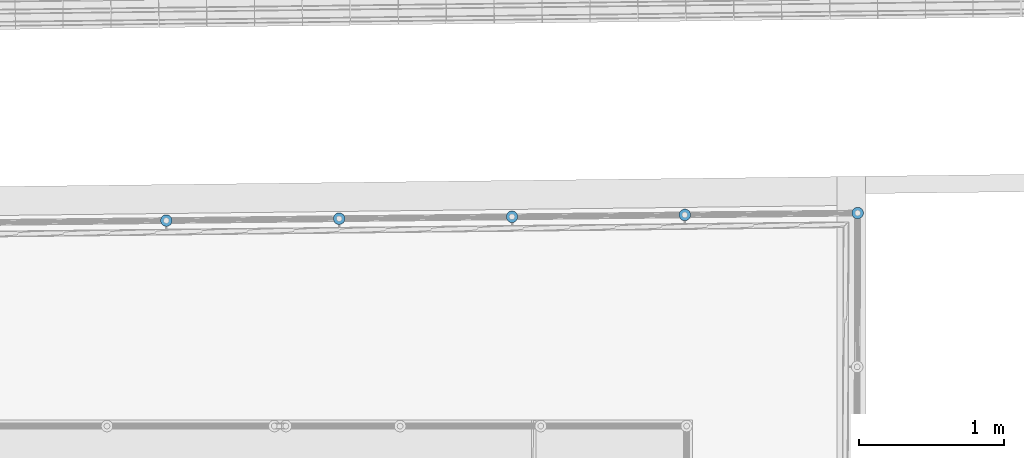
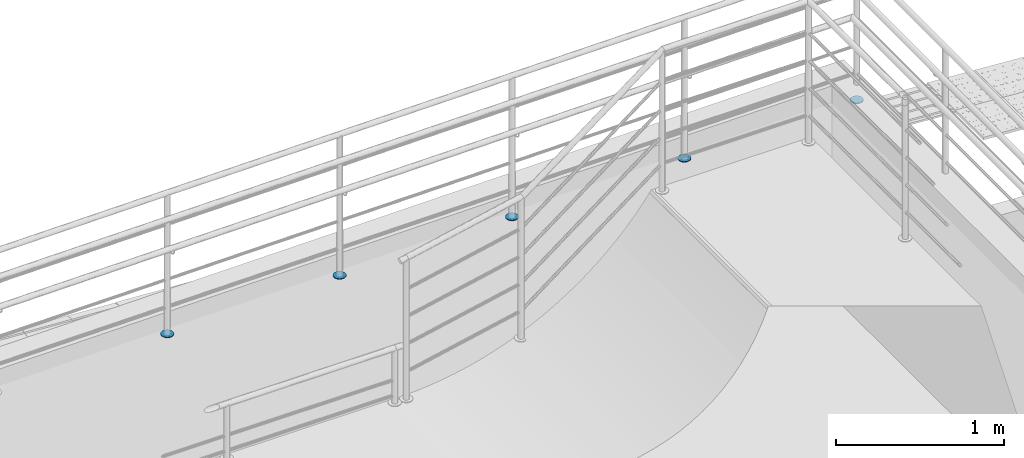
# One storey, part 127 of 237: 5 building element parts, 1 element without a shape of its own.
"""IFC2X3 building model written with IfcOpenShell, lengths in millimetres."""

from ifc_helpers import new_model, entity, si_unit, converted_unit, derived_unit, money_unit, direction, frame, origin_with_axes, place, context, subcontext, project, spatial, faceted_brep, material, type_object, element, aggregate, save


model = new_model("IFC2X3")

# Units and contexts
model_context = context("Model", 3, precision=0.01, world=origin_with_axes(), true_north=direction((0.0, 1.0)))
body_context = subcontext(model_context, "Body", "Model", "MODEL_VIEW")
ifc_project = project(units=[si_unit("LENGTHUNIT", "METRE", prefix="MILLI"), si_unit("AREAUNIT", "SQUARE_METRE"), si_unit("VOLUMEUNIT", "CUBIC_METRE"), converted_unit("PLANEANGLEUNIT", "DEGREE", entity("IfcPlaneAngleMeasure", 0.0174532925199), si_unit("PLANEANGLEUNIT", "RADIAN"), dimensions=[0, 0, 0, 0, 0, 0, 0]), money_unit("USD"), converted_unit("TIMEUNIT", "Year", entity("IfcTimeMeasure", 31556926.0), si_unit("TIMEUNIT", "SECOND"), dimensions=[0, 0, 1, 0, 0, 0, 0]), si_unit("MASSUNIT", "GRAM", prefix="KILO"), si_unit("THERMODYNAMICTEMPERATUREUNIT", "DEGREE_CELSIUS"), si_unit("LUMINOUSINTENSITYUNIT", "LUMEN"), si_unit("ENERGYUNIT", "JOULE", prefix="MEGA"), derived_unit("THERMALCONDUCTANCEUNIT", [(si_unit("POWERUNIT", "WATT"), 1), (si_unit("LENGTHUNIT", "METRE"), -1), (si_unit("THERMODYNAMICTEMPERATUREUNIT", "KELVIN"), -1)]), derived_unit("SPECIFICHEATCAPACITYUNIT", [(si_unit("ENERGYUNIT", "JOULE"), 1), (si_unit("MASSUNIT", "GRAM", prefix="KILO"), -1), (si_unit("THERMODYNAMICTEMPERATUREUNIT", "KELVIN"), -1)]), derived_unit("MASSDENSITYUNIT", [(si_unit("MASSUNIT", "GRAM", prefix="KILO"), 1), (si_unit("VOLUMEUNIT", "CUBIC_METRE"), -1)])], contexts=[model_context])

# Site, building, storey
site_placement = place(None, origin_with_axes())
site = spatial("IfcSite", under=ifc_project, at=site_placement, Name="Local", CompositionType="ELEMENT")
building_placement = place(site_placement, origin_with_axes())
building = spatial("IfcBuilding", under=site, at=building_placement, Name="Construção", CompositionType="ELEMENT")
storey_placement = place(building_placement, origin_with_axes())
storey = spatial("IfcBuildingStorey", under=building, at=storey_placement, Name="Pavimento Térreo", CompositionType="ELEMENT", Elevation=0.0)

# Railing, building element parts
railing_type = type_object("IfcRailingType", Name="Tipo de Guarda-Corpo", PredefinedType="NOTDEFINED")
railing_placement = place(storey_placement, frame((70326.6870103, 28675.2458388, -1357.10819655), z_axis=(0.0, 0.0, 1.0), x_axis=(1.0, 0.0, 0.0)))
railing = element("IfcRailing", 1, at=railing_placement, inside=storey, type_object=railing_type, Name="Guarda-Corpo - 004", PredefinedType="NOTDEFINED")
ifc_material = material(Name="Alumínio")
building_element_part_1_placement = place(railing_placement, origin_with_axes())
building_element_part_1 = element("IfcBuildingElementPart", 2, at=building_element_part_1_placement, material=ifc_material, Name="Alumínio", context=body_context, shape_type="Brep", body=[
    faceted_brep([(-4721.75844762, 6692.00261645, 0.0), (-4728.70616313, 6691.41572676, 0.0), (-4728.70616313, 6691.41572676, 5.0), (-4721.75844762, 6692.00261645, 5.0), (-4714.81437119, 6691.37413183, 0.0), (-4708.08492609, 6689.54936909, 0.0), (-4701.77458311, 6686.58377272, 0.0), (-4696.07507883, 6682.56745086, 0.0), (-4691.15958979, 6677.62243742, 0.0), (-4687.17747065, 6671.89898414, 0.0), (-4684.24971608, 6665.57099524, 0.0), (-4682.46528442, 6658.83074346, 0.0), (-4681.87839473, 6651.88302795, 0.0), (-4682.50687934, 6644.93895152, 0.0), (-4684.33164208, 6638.20950642, 0.0), (-4687.29723846, 6631.89916344, 0.0), (-4691.31356032, 6626.19965916, 0.0), (-4696.25857375, 6621.28417012, 0.0), (-4701.98202704, 6617.30205098, 0.0), (-4708.31001594, 6614.37429641, 0.0), (-4715.05026772, 6612.58986475, 0.0), (-4721.99798323, 6612.00297506, 0.0), (-4728.94205966, 6612.63145968, 0.0), (-4735.67150475, 6614.45622242, 0.0), (-4741.98184773, 6617.42181879, 0.0), (-4747.68135202, 6621.43814065, 0.0), (-4752.59684105, 6626.38315408, 0.0), (-4756.5789602, 6632.10660737, 0.0), (-4759.50671477, 6638.43459627, 0.0), (-4761.29114642, 6645.17484805, 0.0), (-4761.87803612, 6652.12256356, 0.0), (-4761.2495515, 6659.06663999, 0.0), (-4759.42478876, 6665.79608509, 0.0), (-4756.45919239, 6672.10642806, 0.0), (-4752.44287053, 6677.80593235, 0.0), (-4747.49785709, 6682.72142139, 0.0), (-4741.77440381, 6686.70354053, 0.0), (-4735.44641491, 6689.6312951, 0.0), (-4735.44641491, 6689.6312951, 5.0), (-4741.77440381, 6686.70354053, 5.0), (-4747.49785709, 6682.72142139, 5.0), (-4752.44287053, 6677.80593235, 5.0), (-4756.45919239, 6672.10642806, 5.0), (-4759.42478876, 6665.79608509, 5.0), (-4761.2495515, 6659.06663999, 5.0), (-4761.87803612, 6652.12256356, 5.0), (-4761.29114642, 6645.17484805, 5.0), (-4759.50671477, 6638.43459627, 5.0), (-4756.5789602, 6632.10660737, 5.0), (-4752.59684105, 6626.38315408, 5.0), (-4747.68135202, 6621.43814065, 5.0), (-4741.98184773, 6617.42181879, 5.0), (-4735.67150475, 6614.45622242, 5.0), (-4728.94205966, 6612.63145968, 5.0), (-4721.99798323, 6612.00297506, 5.0), (-4715.05026772, 6612.58986475, 5.0), (-4708.31001594, 6614.37429641, 5.0), (-4701.98202704, 6617.30205098, 5.0), (-4696.25857375, 6621.28417012, 5.0), (-4691.31356032, 6626.19965916, 5.0), (-4687.29723846, 6631.89916344, 5.0), (-4684.33164208, 6638.20950642, 5.0), (-4682.50687934, 6644.93895152, 5.0), (-4681.87839473, 6651.88302795, 5.0), (-4682.46528442, 6658.83074346, 5.0), (-4684.24971608, 6665.57099524, 5.0), (-4687.17747065, 6671.89898414, 5.0), (-4691.15958979, 6677.62243742, 5.0), (-4696.07507883, 6682.56745086, 5.0), (-4701.77458311, 6686.58377272, 5.0), (-4708.08492609, 6689.54936909, 5.0), (-4714.81437119, 6691.37413183, 5.0)], [[[0, 1, 2, 3]], [[0, 4, 5, 6, 7, 8, 9, 10, 11, 12, 13, 14, 15, 16, 17, 18, 19, 20, 21, 22, 23, 24, 25, 26, 27, 28, 29, 30, 31, 32, 33, 34, 35, 36, 37, 1]], [[1, 37, 38, 2]], [[3, 2, 38, 39, 40, 41, 42, 43, 44, 45, 46, 47, 48, 49, 50, 51, 52, 53, 54, 55, 56, 57, 58, 59, 60, 61, 62, 63, 64, 65, 66, 67, 68, 69, 70, 71]], [[4, 0, 3, 71]], [[5, 4, 71, 70]], [[6, 5, 70, 69]], [[7, 6, 69, 68]], [[8, 7, 68, 67]], [[9, 8, 67, 66]], [[10, 9, 66, 65]], [[11, 10, 65, 64]], [[12, 11, 64, 63]], [[13, 12, 63, 62]], [[14, 13, 62, 61]], [[15, 14, 61, 60]], [[16, 15, 60, 59]], [[17, 16, 59, 58]], [[18, 17, 58, 57]], [[19, 18, 57, 56]], [[20, 19, 56, 55]], [[21, 20, 55, 54]], [[22, 21, 54, 53]], [[23, 22, 53, 52]], [[24, 23, 52, 51]], [[25, 24, 51, 50]], [[26, 25, 50, 49]], [[27, 26, 49, 48]], [[28, 27, 48, 47]], [[29, 28, 47, 46]], [[30, 29, 46, 45]], [[31, 30, 45, 44]], [[32, 31, 44, 43]], [[33, 32, 43, 42]], [[34, 33, 42, 41]], [[35, 34, 41, 40]], [[36, 35, 40, 39]], [[37, 36, 39, 38]]]),
])
building_element_part_2_placement = place(railing_placement, origin_with_axes())
building_element_part_2 = element("IfcBuildingElementPart", 3, at=building_element_part_2_placement, material=ifc_material, Name="Alumínio", context=body_context, shape_type="Brep", body=[
    faceted_brep([(-5956.51307628, 6638.5740712, 0.0), (-5955.8298782, 6631.63516417, 0.0), (-5955.8298782, 6631.63516417, 5.0), (-5956.51307628, 6638.5740712, 5.0), (-5955.98096648, 6645.52619674, 0.0), (-5954.24971669, 6652.28030397, 0.0), (-5951.37193006, 6658.63117277, 0.0), (-5947.43504669, 6664.3858352, 0.0), (-5942.55868677, 6669.36943875, 0.0), (-5936.89101605, 6673.43055915, 0.0), (-5930.60424382, 6676.44580132, 0.0), (-5923.88939048, 6678.32354864, 0.0), (-5916.95048345, 6679.00674671, 0.0), (-5909.99835791, 6678.47463691, 0.0), (-5903.24425068, 6676.74338712, 0.0), (-5896.89338188, 6673.8656005, 0.0), (-5891.13871945, 6669.92871712, 0.0), (-5886.1551159, 6665.05235721, 0.0), (-5882.0939955, 6659.38468648, 0.0), (-5879.07875334, 6653.09791426, 0.0), (-5877.20100601, 6646.38306092, 0.0), (-5876.51780794, 6639.44415389, 0.0), (-5877.04991774, 6632.49202835, 0.0), (-5878.78116753, 6625.73792112, 0.0), (-5881.65895415, 6619.38705232, 0.0), (-5885.59583753, 6613.63238989, 0.0), (-5890.47219744, 6608.64878634, 0.0), (-5896.13986817, 6604.58766594, 0.0), (-5902.42664039, 6601.57242377, 0.0), (-5909.14149373, 6599.69467645, 0.0), (-5916.08040076, 6599.01147838, 0.0), (-5923.0325263, 6599.54358818, 0.0), (-5929.78663354, 6601.27483796, 0.0), (-5936.13750233, 6604.15262459, 0.0), (-5941.89216476, 6608.08950796, 0.0), (-5946.87576831, 6612.96586788, 0.0), (-5950.93688872, 6618.6335386, 0.0), (-5953.95213088, 6624.92031083, 0.0), (-5953.95213088, 6624.92031083, 5.0), (-5950.93688872, 6618.6335386, 5.0), (-5946.87576831, 6612.96586788, 5.0), (-5941.89216476, 6608.08950796, 5.0), (-5936.13750233, 6604.15262459, 5.0), (-5929.78663354, 6601.27483796, 5.0), (-5923.0325263, 6599.54358818, 5.0), (-5916.08040076, 6599.01147838, 5.0), (-5909.14149373, 6599.69467645, 5.0), (-5902.42664039, 6601.57242377, 5.0), (-5896.13986817, 6604.58766594, 5.0), (-5890.47219744, 6608.64878634, 5.0), (-5885.59583753, 6613.63238989, 5.0), (-5881.65895415, 6619.38705232, 5.0), (-5878.78116753, 6625.73792112, 5.0), (-5877.04991774, 6632.49202835, 5.0), (-5876.51780794, 6639.44415389, 5.0), (-5877.20100601, 6646.38306092, 5.0), (-5879.07875334, 6653.09791426, 5.0), (-5882.0939955, 6659.38468648, 5.0), (-5886.1551159, 6665.05235721, 5.0), (-5891.13871945, 6669.92871712, 5.0), (-5896.89338188, 6673.8656005, 5.0), (-5903.24425068, 6676.74338712, 5.0), (-5909.99835791, 6678.47463691, 5.0), (-5916.95048345, 6679.00674671, 5.0), (-5923.88939048, 6678.32354864, 5.0), (-5930.60424382, 6676.44580132, 5.0), (-5936.89101605, 6673.43055915, 5.0), (-5942.55868677, 6669.36943875, 5.0), (-5947.43504669, 6664.3858352, 5.0), (-5951.37193006, 6658.63117277, 5.0), (-5954.24971669, 6652.28030397, 5.0), (-5955.98096648, 6645.52619674, 5.0)], [[[0, 1, 2, 3]], [[0, 4, 5, 6, 7, 8, 9, 10, 11, 12, 13, 14, 15, 16, 17, 18, 19, 20, 21, 22, 23, 24, 25, 26, 27, 28, 29, 30, 31, 32, 33, 34, 35, 36, 37, 1]], [[1, 37, 38, 2]], [[3, 2, 38, 39, 40, 41, 42, 43, 44, 45, 46, 47, 48, 49, 50, 51, 52, 53, 54, 55, 56, 57, 58, 59, 60, 61, 62, 63, 64, 65, 66, 67, 68, 69, 70, 71]], [[4, 0, 3, 71]], [[5, 4, 71, 70]], [[6, 5, 70, 69]], [[7, 6, 69, 68]], [[8, 7, 68, 67]], [[9, 8, 67, 66]], [[10, 9, 66, 65]], [[11, 10, 65, 64]], [[12, 11, 64, 63]], [[13, 12, 63, 62]], [[14, 13, 62, 61]], [[15, 14, 61, 60]], [[16, 15, 60, 59]], [[17, 16, 59, 58]], [[18, 17, 58, 57]], [[19, 18, 57, 56]], [[20, 19, 56, 55]], [[21, 20, 55, 54]], [[22, 21, 54, 53]], [[23, 22, 53, 52]], [[24, 23, 52, 51]], [[25, 24, 51, 50]], [[26, 25, 50, 49]], [[27, 26, 49, 48]], [[28, 27, 48, 47]], [[29, 28, 47, 46]], [[30, 29, 46, 45]], [[31, 30, 45, 44]], [[32, 31, 44, 43]], [[33, 32, 43, 42]], [[34, 33, 42, 41]], [[35, 34, 41, 40]], [[36, 35, 40, 39]], [[37, 36, 39, 38]]]),
])
building_element_part_3_placement = place(railing_placement, origin_with_axes())
building_element_part_3 = element("IfcBuildingElementPart", 4, at=building_element_part_3_placement, material=ifc_material, Name="Alumínio", context=body_context, shape_type="Brep", body=[
    faceted_brep([(-7151.15030296, 6625.58038799, 0.0), (-7150.46710489, 6618.64148096, 0.0), (-7150.46710489, 6618.64148096, 5.0), (-7151.15030296, 6625.58038799, 5.0), (-7150.61819316, 6632.53251352, 0.0), (-7148.88694337, 6639.28662076, 0.0), (-7146.00915675, 6645.63748956, 0.0), (-7142.07227337, 6651.39215199, 0.0), (-7137.19591346, 6656.37575554, 0.0), (-7131.52824273, 6660.43687594, 0.0), (-7125.24147051, 6663.4521181, 0.0), (-7118.52661717, 6665.32986543, 0.0), (-7111.58771014, 6666.0130635, 0.0), (-7104.6355846, 6665.4809537, 0.0), (-7097.88147736, 6663.74970391, 0.0), (-7091.53060857, 6660.87191729, 0.0), (-7085.77594614, 6656.93503391, 0.0), (-7080.79234259, 6652.058674, 0.0), (-7076.73122219, 6646.39100327, 0.0), (-7073.71598002, 6640.10423105, 0.0), (-7071.8382327, 6633.38937771, 0.0), (-7071.15503462, 6626.45047068, 0.0), (-7071.68714443, 6619.49834514, 0.0), (-7073.41839421, 6612.7442379, 0.0), (-7076.29618084, 6606.39336911, 0.0), (-7080.23306421, 6600.63870668, 0.0), (-7085.10942413, 6595.65510313, 0.0), (-7090.77709485, 6591.59398272, 0.0), (-7097.06386708, 6588.57874056, 0.0), (-7103.77872042, 6586.70099324, 0.0), (-7110.71762745, 6586.01779516, 0.0), (-7117.66975299, 6586.54990496, 0.0), (-7124.42386022, 6588.28115475, 0.0), (-7130.77472902, 6591.15894138, 0.0), (-7136.52939145, 6595.09582475, 0.0), (-7141.512995, 6599.97218467, 0.0), (-7145.5741154, 6605.63985539, 0.0), (-7148.58935757, 6611.92662762, 0.0), (-7148.58935757, 6611.92662762, 5.0), (-7145.5741154, 6605.63985539, 5.0), (-7141.512995, 6599.97218467, 5.0), (-7136.52939145, 6595.09582475, 5.0), (-7130.77472902, 6591.15894138, 5.0), (-7124.42386022, 6588.28115475, 5.0), (-7117.66975299, 6586.54990496, 5.0), (-7110.71762745, 6586.01779516, 5.0), (-7103.77872042, 6586.70099324, 5.0), (-7097.06386708, 6588.57874056, 5.0), (-7090.77709485, 6591.59398272, 5.0), (-7085.10942413, 6595.65510313, 5.0), (-7080.23306421, 6600.63870668, 5.0), (-7076.29618084, 6606.39336911, 5.0), (-7073.41839421, 6612.7442379, 5.0), (-7071.68714443, 6619.49834514, 5.0), (-7071.15503462, 6626.45047068, 5.0), (-7071.8382327, 6633.38937771, 5.0), (-7073.71598002, 6640.10423105, 5.0), (-7076.73122219, 6646.39100327, 5.0), (-7080.79234259, 6652.058674, 5.0), (-7085.77594614, 6656.93503391, 5.0), (-7091.53060857, 6660.87191729, 5.0), (-7097.88147736, 6663.74970391, 5.0), (-7104.6355846, 6665.4809537, 5.0), (-7111.58771014, 6666.0130635, 5.0), (-7118.52661717, 6665.32986543, 5.0), (-7125.24147051, 6663.4521181, 5.0), (-7131.52824273, 6660.43687594, 5.0), (-7137.19591346, 6656.37575554, 5.0), (-7142.07227337, 6651.39215199, 5.0), (-7146.00915675, 6645.63748956, 5.0), (-7148.88694337, 6639.28662076, 5.0), (-7150.61819316, 6632.53251352, 5.0)], [[[0, 1, 2, 3]], [[0, 4, 5, 6, 7, 8, 9, 10, 11, 12, 13, 14, 15, 16, 17, 18, 19, 20, 21, 22, 23, 24, 25, 26, 27, 28, 29, 30, 31, 32, 33, 34, 35, 36, 37, 1]], [[1, 37, 38, 2]], [[3, 2, 38, 39, 40, 41, 42, 43, 44, 45, 46, 47, 48, 49, 50, 51, 52, 53, 54, 55, 56, 57, 58, 59, 60, 61, 62, 63, 64, 65, 66, 67, 68, 69, 70, 71]], [[4, 0, 3, 71]], [[5, 4, 71, 70]], [[6, 5, 70, 69]], [[7, 6, 69, 68]], [[8, 7, 68, 67]], [[9, 8, 67, 66]], [[10, 9, 66, 65]], [[11, 10, 65, 64]], [[12, 11, 64, 63]], [[13, 12, 63, 62]], [[14, 13, 62, 61]], [[15, 14, 61, 60]], [[16, 15, 60, 59]], [[17, 16, 59, 58]], [[18, 17, 58, 57]], [[19, 18, 57, 56]], [[20, 19, 56, 55]], [[21, 20, 55, 54]], [[22, 21, 54, 53]], [[23, 22, 53, 52]], [[24, 23, 52, 51]], [[25, 24, 51, 50]], [[26, 25, 50, 49]], [[27, 26, 49, 48]], [[28, 27, 48, 47]], [[29, 28, 47, 46]], [[30, 29, 46, 45]], [[31, 30, 45, 44]], [[32, 31, 44, 43]], [[33, 32, 43, 42]], [[34, 33, 42, 41]], [[35, 34, 41, 40]], [[36, 35, 40, 39]], [[37, 36, 39, 38]]]),
])
building_element_part_4_placement = place(railing_placement, origin_with_axes())
building_element_part_4 = element("IfcBuildingElementPart", 5, at=building_element_part_4_placement, material=ifc_material, Name="Alumínio", context=body_context, shape_type="Brep", body=[
    faceted_brep([(-8345.78752965, 6612.58670477, 0.0), (-8345.10433157, 6605.64779775, 0.0), (-8345.10433157, 6605.64779775, 5.0), (-8345.78752965, 6612.58670477, 5.0), (-8345.25541985, 6619.53883031, 0.0), (-8343.52417006, 6626.29293755, 0.0), (-8340.64638343, 6632.64380635, 0.0), (-8336.70950006, 6638.39846877, 0.0), (-8331.83314014, 6643.38207233, 0.0), (-8326.16546942, 6647.44319273, 0.0), (-8319.87869719, 6650.45843489, 0.0), (-8313.16384385, 6652.33618221, 0.0), (-8306.22493682, 6653.01938029, 0.0), (-8299.27281128, 6652.48727049, 0.0), (-8292.51870405, 6650.7560207, 0.0), (-8286.16783525, 6647.87823407, 0.0), (-8280.41317282, 6643.9413507, 0.0), (-8275.42956927, 6639.06499079, 0.0), (-8271.36844887, 6633.39732006, 0.0), (-8268.3532067, 6627.11054783, 0.0), (-8266.47545938, 6620.3956945, 0.0), (-8265.79226131, 6613.45678747, 0.0), (-8266.32437111, 6606.50466193, 0.0), (-8268.0556209, 6599.75055469, 0.0), (-8270.93340752, 6593.39968589, 0.0), (-8274.8702909, 6587.64502347, 0.0), (-8279.74665081, 6582.66141992, 0.0), (-8285.41432154, 6578.60029951, 0.0), (-8291.70109376, 6575.58505735, 0.0), (-8298.4159471, 6573.70731003, 0.0), (-8305.35485413, 6573.02411195, 0.0), (-8312.30697967, 6573.55622175, 0.0), (-8319.06108691, 6575.28747154, 0.0), (-8325.4119557, 6578.16525817, 0.0), (-8331.16661813, 6582.10214154, 0.0), (-8336.15022168, 6586.97850145, 0.0), (-8340.21134209, 6592.64617218, 0.0), (-8343.22658425, 6598.93294441, 0.0), (-8343.22658425, 6598.93294441, 5.0), (-8340.21134209, 6592.64617218, 5.0), (-8336.15022168, 6586.97850145, 5.0), (-8331.16661813, 6582.10214154, 5.0), (-8325.4119557, 6578.16525817, 5.0), (-8319.06108691, 6575.28747154, 5.0), (-8312.30697967, 6573.55622175, 5.0), (-8305.35485413, 6573.02411195, 5.0), (-8298.4159471, 6573.70731003, 5.0), (-8291.70109376, 6575.58505735, 5.0), (-8285.41432154, 6578.60029951, 5.0), (-8279.74665081, 6582.66141992, 5.0), (-8274.8702909, 6587.64502347, 5.0), (-8270.93340752, 6593.39968589, 5.0), (-8268.0556209, 6599.75055469, 5.0), (-8266.32437111, 6606.50466193, 5.0), (-8265.79226131, 6613.45678747, 5.0), (-8266.47545938, 6620.3956945, 5.0), (-8268.3532067, 6627.11054783, 5.0), (-8271.36844887, 6633.39732006, 5.0), (-8275.42956927, 6639.06499079, 5.0), (-8280.41317282, 6643.9413507, 5.0), (-8286.16783525, 6647.87823407, 5.0), (-8292.51870405, 6650.7560207, 5.0), (-8299.27281128, 6652.48727049, 5.0), (-8306.22493682, 6653.01938029, 5.0), (-8313.16384385, 6652.33618221, 5.0), (-8319.87869719, 6650.45843489, 5.0), (-8326.16546942, 6647.44319273, 5.0), (-8331.83314014, 6643.38207233, 5.0), (-8336.70950006, 6638.39846877, 5.0), (-8340.64638343, 6632.64380635, 5.0), (-8343.52417006, 6626.29293755, 5.0), (-8345.25541985, 6619.53883031, 5.0)], [[[0, 1, 2, 3]], [[0, 4, 5, 6, 7, 8, 9, 10, 11, 12, 13, 14, 15, 16, 17, 18, 19, 20, 21, 22, 23, 24, 25, 26, 27, 28, 29, 30, 31, 32, 33, 34, 35, 36, 37, 1]], [[1, 37, 38, 2]], [[3, 2, 38, 39, 40, 41, 42, 43, 44, 45, 46, 47, 48, 49, 50, 51, 52, 53, 54, 55, 56, 57, 58, 59, 60, 61, 62, 63, 64, 65, 66, 67, 68, 69, 70, 71]], [[4, 0, 3, 71]], [[5, 4, 71, 70]], [[6, 5, 70, 69]], [[7, 6, 69, 68]], [[8, 7, 68, 67]], [[9, 8, 67, 66]], [[10, 9, 66, 65]], [[11, 10, 65, 64]], [[12, 11, 64, 63]], [[13, 12, 63, 62]], [[14, 13, 62, 61]], [[15, 14, 61, 60]], [[16, 15, 60, 59]], [[17, 16, 59, 58]], [[18, 17, 58, 57]], [[19, 18, 57, 56]], [[20, 19, 56, 55]], [[21, 20, 55, 54]], [[22, 21, 54, 53]], [[23, 22, 53, 52]], [[24, 23, 52, 51]], [[25, 24, 51, 50]], [[26, 25, 50, 49]], [[27, 26, 49, 48]], [[28, 27, 48, 47]], [[29, 28, 47, 46]], [[30, 29, 46, 45]], [[31, 30, 45, 44]], [[32, 31, 44, 43]], [[33, 32, 43, 42]], [[34, 33, 42, 41]], [[35, 34, 41, 40]], [[36, 35, 40, 39]], [[37, 36, 39, 38]]]),
])
building_element_part_5_placement = place(railing_placement, origin_with_axes())
building_element_part_5 = element("IfcBuildingElementPart", 6, at=building_element_part_5_placement, material=ifc_material, Name="Alumínio", context=body_context, shape_type="Brep", body=[
    faceted_brep([(-9540.42475633, 6599.59302156, 0.0), (-9539.74155826, 6592.65411453, 0.0), (-9539.74155826, 6592.65411453, 5.0), (-9540.42475633, 6599.59302156, 5.0), (-9539.89264653, 6606.5451471, 0.0), (-9538.16139674, 6613.29925434, 0.0), (-9535.28361012, 6619.65012313, 0.0), (-9531.34672674, 6625.40478556, 0.0), (-9526.47036683, 6630.38838911, 0.0), (-9520.8026961, 6634.44950952, 0.0), (-9514.51592388, 6637.46475168, 0.0), (-9507.80107054, 6639.342499, 0.0), (-9500.86216351, 6640.02569708, 0.0), (-9493.91003797, 6639.49358728, 0.0), (-9487.15593073, 6637.76233749, 0.0), (-9480.80506194, 6634.88455086, 0.0), (-9475.05039951, 6630.94766749, 0.0), (-9470.06679596, 6626.07130757, 0.0), (-9466.00567555, 6620.40363685, 0.0), (-9462.99043339, 6614.11686462, 0.0), (-9461.11268607, 6607.40201128, 0.0), (-9460.42948799, 6600.46310426, 0.0), (-9460.96159779, 6593.51097872, 0.0), (-9462.69284758, 6586.75687148, 0.0), (-9465.57063421, 6580.40600268, 0.0), (-9469.50751758, 6574.65134025, 0.0), (-9474.3838775, 6569.6677367, 0.0), (-9480.05154822, 6565.6066163, 0.0), (-9486.33832045, 6562.59137414, 0.0), (-9493.05317379, 6560.71362682, 0.0), (-9499.99208082, 6560.03042874, 0.0), (-9506.94420636, 6560.56253854, 0.0), (-9513.69831359, 6562.29378833, 0.0), (-9520.04918239, 6565.17157495, 0.0), (-9525.80384482, 6569.10845833, 0.0), (-9530.78744837, 6573.98481824, 0.0), (-9534.84856877, 6579.65248897, 0.0), (-9537.86381094, 6585.93926119, 0.0), (-9537.86381094, 6585.93926119, 5.0), (-9534.84856877, 6579.65248897, 5.0), (-9530.78744837, 6573.98481824, 5.0), (-9525.80384482, 6569.10845833, 5.0), (-9520.04918239, 6565.17157495, 5.0), (-9513.69831359, 6562.29378833, 5.0), (-9506.94420636, 6560.56253854, 5.0), (-9499.99208082, 6560.03042874, 5.0), (-9493.05317379, 6560.71362682, 5.0), (-9486.33832045, 6562.59137414, 5.0), (-9480.05154822, 6565.6066163, 5.0), (-9474.3838775, 6569.6677367, 5.0), (-9469.50751758, 6574.65134025, 5.0), (-9465.57063421, 6580.40600268, 5.0), (-9462.69284758, 6586.75687148, 5.0), (-9460.96159779, 6593.51097872, 5.0), (-9460.42948799, 6600.46310426, 5.0), (-9461.11268607, 6607.40201128, 5.0), (-9462.99043339, 6614.11686462, 5.0), (-9466.00567555, 6620.40363685, 5.0), (-9470.06679596, 6626.07130757, 5.0), (-9475.05039951, 6630.94766749, 5.0), (-9480.80506194, 6634.88455086, 5.0), (-9487.15593073, 6637.76233749, 5.0), (-9493.91003797, 6639.49358728, 5.0), (-9500.86216351, 6640.02569708, 5.0), (-9507.80107054, 6639.342499, 5.0), (-9514.51592388, 6637.46475168, 5.0), (-9520.8026961, 6634.44950952, 5.0), (-9526.47036683, 6630.38838911, 5.0), (-9531.34672674, 6625.40478556, 5.0), (-9535.28361012, 6619.65012313, 5.0), (-9538.16139674, 6613.29925434, 5.0), (-9539.89264653, 6606.5451471, 5.0)], [[[0, 1, 2, 3]], [[0, 4, 5, 6, 7, 8, 9, 10, 11, 12, 13, 14, 15, 16, 17, 18, 19, 20, 21, 22, 23, 24, 25, 26, 27, 28, 29, 30, 31, 32, 33, 34, 35, 36, 37, 1]], [[1, 37, 38, 2]], [[3, 2, 38, 39, 40, 41, 42, 43, 44, 45, 46, 47, 48, 49, 50, 51, 52, 53, 54, 55, 56, 57, 58, 59, 60, 61, 62, 63, 64, 65, 66, 67, 68, 69, 70, 71]], [[4, 0, 3, 71]], [[5, 4, 71, 70]], [[6, 5, 70, 69]], [[7, 6, 69, 68]], [[8, 7, 68, 67]], [[9, 8, 67, 66]], [[10, 9, 66, 65]], [[11, 10, 65, 64]], [[12, 11, 64, 63]], [[13, 12, 63, 62]], [[14, 13, 62, 61]], [[15, 14, 61, 60]], [[16, 15, 60, 59]], [[17, 16, 59, 58]], [[18, 17, 58, 57]], [[19, 18, 57, 56]], [[20, 19, 56, 55]], [[21, 20, 55, 54]], [[22, 21, 54, 53]], [[23, 22, 53, 52]], [[24, 23, 52, 51]], [[25, 24, 51, 50]], [[26, 25, 50, 49]], [[27, 26, 49, 48]], [[28, 27, 48, 47]], [[29, 28, 47, 46]], [[30, 29, 46, 45]], [[31, 30, 45, 44]], [[32, 31, 44, 43]], [[33, 32, 43, 42]], [[34, 33, 42, 41]], [[35, 34, 41, 40]], [[36, 35, 40, 39]], [[37, 36, 39, 38]]]),
])
aggregate(railing, [building_element_part_1, building_element_part_2, building_element_part_3, building_element_part_4, building_element_part_5])

save(model, "model.ifc")
